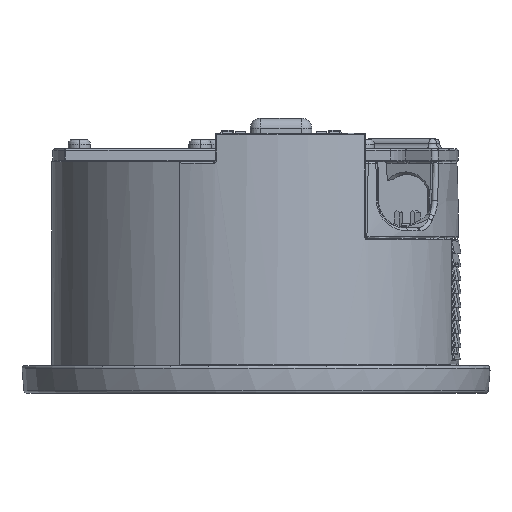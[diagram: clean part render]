
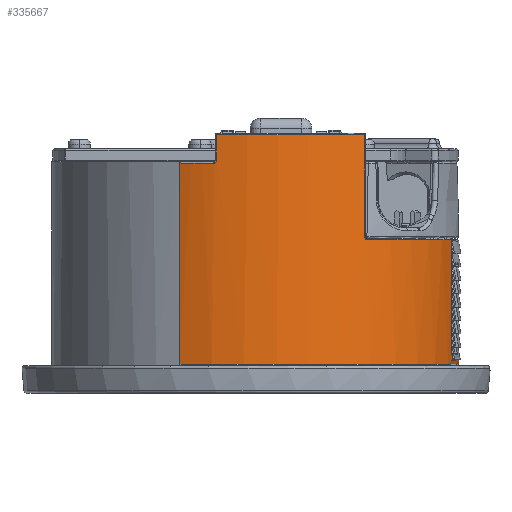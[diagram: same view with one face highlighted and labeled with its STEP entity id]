
A CAD part, front view. The second image highlights one B-rep face of the part: STEP entity #335667.
In plain terms, the highlighted cylindrical face has radius 39.75 mm (diameter 79.5 mm), a partial arc.
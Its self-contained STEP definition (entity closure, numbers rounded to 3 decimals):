
#599 = CARTESIAN_POINT ( 'NONE',  ( -14.089, -36.247, 106.2 ) ) ;
#1860 = DIRECTION ( 'NONE',  ( 0., 0., -1. ) ) ;
#5060 = EDGE_CURVE ( 'NONE', #247431, #171749, #34107, .T. ) ;
#13631 = CARTESIAN_POINT ( 'NONE',  ( -14.089, -36.247, 111.5 ) ) ;
#13843 = VECTOR ( 'NONE', #306586, 1000. ) ;
#15016 = CIRCLE ( 'NONE', #158683, 39.75 ) ;
#16196 = ORIENTED_EDGE ( 'NONE', *, *, #92548, .T. ) ;
#20442 = AXIS2_PLACEMENT_3D ( 'NONE', #110356, #340434, #47844 ) ;
#23114 = CARTESIAN_POINT ( 'NONE',  ( 33.42, 2.739, 67.2 ) ) ;
#23176 = CARTESIAN_POINT ( 'NONE',  ( 15.187, -30.684, 91.042 ) ) ;
#29700 = EDGE_CURVE ( 'NONE', #379120, #58237, #63754, .T. ) ;
#30875 = DIRECTION ( 'NONE',  ( 0., 0., -1. ) ) ;
#34107 = CIRCLE ( 'NONE', #299747, 39.75 ) ;
#34359 = DIRECTION ( 'NONE',  ( 0., 0., -1. ) ) ;
#38847 = CARTESIAN_POINT ( 'NONE',  ( -14.089, -36.247, 106.5 ) ) ;
#40110 = CARTESIAN_POINT ( 'NONE',  ( -14.156, -36.233, 106.183 ) ) ;
#42412 = VERTEX_POINT ( 'NONE', #135340 ) ;
#45787 = VECTOR ( 'NONE', #1860, 1000. ) ;
#47236 = ORIENTED_EDGE ( 'NONE', *, *, #370423, .T. ) ;
#47844 = DIRECTION ( 'NONE',  ( 1., 0., 0. ) ) ;
#50436 = LINE ( 'NONE', #336390, #228900 ) ;
#53815 = CARTESIAN_POINT ( 'NONE',  ( 15.141, -30.713, 91.083 ) ) ;
#58237 = VERTEX_POINT ( 'NONE', #13631 ) ;
#60306 = DIRECTION ( 'NONE',  ( 1., 0., 0. ) ) ;
#61635 = CARTESIAN_POINT ( 'NONE',  ( -6.33, 2.739, 105.9 ) ) ;
#63082 = CARTESIAN_POINT ( 'NONE',  ( -14.089, -36.247, 106.5 ) ) ;
#63754 = CIRCLE ( 'NONE', #243416, 39.75 ) ;
#68809 = LINE ( 'NONE', #277179, #13843 ) ;
#70793 = CARTESIAN_POINT ( 'NONE',  ( -14.693, -36.121, 105.9 ) ) ;
#76858 = DIRECTION ( 'NONE',  ( 0., 0., 1. ) ) ;
#79351 = DIRECTION ( 'NONE',  ( 1., 0., 0. ) ) ;
#83194 = CARTESIAN_POINT ( 'NONE',  ( 15.046, -30.774, 91.213 ) ) ;
#85722 = ORIENTED_EDGE ( 'NONE', *, *, #178183, .T. ) ;
#92548 = EDGE_CURVE ( 'NONE', #288303, #379120, #50436, .T. ) ;
#103309 = AXIS2_PLACEMENT_3D ( 'NONE', #166289, #76858, #79351 ) ;
#110356 = CARTESIAN_POINT ( 'NONE',  ( -6.33, 2.739, 106.2 ) ) ;
#111404 = VERTEX_POINT ( 'NONE', #295234 ) ;
#113678 = CARTESIAN_POINT ( 'NONE',  ( -14.693, -36.121, 105.9 ) ) ;
#121409 = CARTESIAN_POINT ( 'NONE',  ( 14.973, -30.82, 91.5 ) ) ;
#121698 = DIRECTION ( 'NONE',  ( 1., 0., 0. ) ) ;
#129647 = CARTESIAN_POINT ( 'NONE',  ( -14.089, -36.247, 106.341 ) ) ;
#135340 = CARTESIAN_POINT ( 'NONE',  ( 32.016, -7.734, 90.9 ) ) ;
#137669 = VECTOR ( 'NONE', #275951, 1000. ) ;
#138744 = VERTEX_POINT ( 'NONE', #63082 ) ;
#139563 = CARTESIAN_POINT ( 'NONE',  ( 15.231, -30.655, 91.008 ) ) ;
#140332 = CARTESIAN_POINT ( 'NONE',  ( 32.016, -7.734, 90.9 ) ) ;
#141289 = CARTESIAN_POINT ( 'NONE',  ( 15.578, -30.429, 90.9 ) ) ;
#141804 = LINE ( 'NONE', #599, #45787 ) ;
#144523 = CARTESIAN_POINT ( 'NONE',  ( 15.434, -30.523, 90.916 ) ) ;
#145773 = CARTESIAN_POINT ( 'NONE',  ( 14.992, -30.809, 91.329 ) ) ;
#147327 = EDGE_CURVE ( 'NONE', #42412, #149478, #188459, .T. ) ;
#149478 = VERTEX_POINT ( 'NONE', #141289 ) ;
#154955 = CARTESIAN_POINT ( 'NONE',  ( 33.42, 2.739, 66.5 ) ) ;
#156450 = ORIENTED_EDGE ( 'NONE', *, *, #219569, .T. ) ;
#158498 = EDGE_LOOP ( 'NONE', ( #202916, #343809, #338458, #284463, #85722, #16196, #272331, #47236, #376781, #178861, #335605, #156450 ) ) ;
#158683 = AXIS2_PLACEMENT_3D ( 'NONE', #61635, #266023, #121698 ) ;
#166289 = CARTESIAN_POINT ( 'NONE',  ( -6.33, 2.739, 66.5 ) ) ;
#166496 = AXIS2_PLACEMENT_3D ( 'NONE', #234070, #30875, #60306 ) ;
#168542 = CARTESIAN_POINT ( 'NONE',  ( 14.973, -30.82, 91.5 ) ) ;
#171749 = VERTEX_POINT ( 'NONE', #283382 ) ;
#178183 = EDGE_CURVE ( 'NONE', #149478, #288303, #357416, .T. ) ;
#178797 = CARTESIAN_POINT ( 'NONE',  ( -6.33, 2.739, 67.2 ) ) ;
#178861 = ORIENTED_EDGE ( 'NONE', *, *, #210745, .F. ) ;
#188459 = CIRCLE ( 'NONE', #166496, 39.75 ) ;
#200769 = CARTESIAN_POINT ( 'NONE',  ( 15.1, -30.739, 91.128 ) ) ;
#202916 = ORIENTED_EDGE ( 'NONE', *, *, #287894, .F. ) ;
#210745 = EDGE_CURVE ( 'NONE', #268064, #211334, #15016, .T. ) ;
#211334 = VERTEX_POINT ( 'NONE', #113678 ) ;
#212636 = DIRECTION ( 'NONE',  ( 0., 0., -1. ) ) ;
#214520 = EDGE_CURVE ( 'NONE', #171749, #42412, #327288, .T. ) ;
#219569 = EDGE_CURVE ( 'NONE', #111404, #279874, #227985, .T. ) ;
#223422 = CARTESIAN_POINT ( 'NONE',  ( 32.075, -7.513, 75.109 ) ) ;
#227985 = CIRCLE ( 'NONE', #103309, 39.75 ) ;
#228900 = VECTOR ( 'NONE', #367113, 1000. ) ;
#229920 = FACE_OUTER_BOUND ( 'NONE', #158498, .T. ) ;
#234070 = CARTESIAN_POINT ( 'NONE',  ( -6.33, 2.739, 90.9 ) ) ;
#236280 = DIRECTION ( 'NONE',  ( 1., 0., 0. ) ) ;
#239109 = CARTESIAN_POINT ( 'NONE',  ( 14.973, -30.82, 111.5 ) ) ;
#243416 = AXIS2_PLACEMENT_3D ( 'NONE', #299397, #212636, #330167 ) ;
#247431 = VERTEX_POINT ( 'NONE', #23114 ) ;
#247997 = CYLINDRICAL_SURFACE ( 'NONE', #20442, 39.75 ) ;
#255420 = B_SPLINE_CURVE_WITH_KNOTS ( 'NONE', 3,
 ( #70793, #302006, #335286, #40110, #129647, #38847 ),
 .UNSPECIFIED., .F., .F.,
 ( 4, 2, 4 ),
 ( 0., 0.5, 1. ),
 .UNSPECIFIED. ) ;
#256331 = LINE ( 'NONE', #364244, #137669 ) ;
#266023 = DIRECTION ( 'NONE',  ( 0., 0., 1. ) ) ;
#268064 = VERTEX_POINT ( 'NONE', #341673 ) ;
#272331 = ORIENTED_EDGE ( 'NONE', *, *, #29700, .T. ) ;
#275951 = DIRECTION ( 'NONE',  ( 0., 0., -1. ) ) ;
#277179 = CARTESIAN_POINT ( 'NONE',  ( -21.26, -34.101, 106.2 ) ) ;
#279874 = VERTEX_POINT ( 'NONE', #154955 ) ;
#283382 = CARTESIAN_POINT ( 'NONE',  ( 32.104, -7.403, 67.2 ) ) ;
#284463 = ORIENTED_EDGE ( 'NONE', *, *, #147327, .T. ) ;
#287894 = EDGE_CURVE ( 'NONE', #247431, #279874, #256331, .T. ) ;
#288303 = VERTEX_POINT ( 'NONE', #168542 ) ;
#290022 = CARTESIAN_POINT ( 'NONE',  ( 15.541, -30.453, 90.9 ) ) ;
#295234 = CARTESIAN_POINT ( 'NONE',  ( -21.26, -34.101, 66.5 ) ) ;
#299397 = CARTESIAN_POINT ( 'NONE',  ( -6.33, 2.739, 111.5 ) ) ;
#299747 = AXIS2_PLACEMENT_3D ( 'NONE', #178797, #34359, #236280 ) ;
#302006 = CARTESIAN_POINT ( 'NONE',  ( -14.537, -36.155, 105.9 ) ) ;
#306586 = DIRECTION ( 'NONE',  ( 0., 0., -1. ) ) ;
#309539 = EDGE_CURVE ( 'NONE', #211334, #138744, #255420, .T. ) ;
#312766 = CARTESIAN_POINT ( 'NONE',  ( 32.046, -7.624, 83.009 ) ) ;
#314472 = CARTESIAN_POINT ( 'NONE',  ( 15.578, -30.429, 90.9 ) ) ;
#316986 = CARTESIAN_POINT ( 'NONE',  ( 15.329, -30.592, 90.952 ) ) ;
#319449 = CARTESIAN_POINT ( 'NONE',  ( 15.505, -30.477, 90.903 ) ) ;
#320740 = CARTESIAN_POINT ( 'NONE',  ( 15.037, -30.78, 91.23 ) ) ;
#327288 =( BOUNDED_CURVE ( )  B_SPLINE_CURVE ( 3, ( #369163, #223422, #312766, #140332 ),
 .UNSPECIFIED., .F., .F. ) 
 B_SPLINE_CURVE_WITH_KNOTS ( ( 4, 4 ),
 ( 1.829, 1.837 ),
 .UNSPECIFIED. ) 
 CURVE ( )  GEOMETRIC_REPRESENTATION_ITEM ( )  RATIONAL_B_SPLINE_CURVE ( ( 1., 1., 1., 1. ) ) 
 REPRESENTATION_ITEM ( '' )  );
#330167 = DIRECTION ( 'NONE',  ( 1., 0., 0. ) ) ;
#335286 = CARTESIAN_POINT ( 'NONE',  ( -14.38, -36.187, 105.963 ) ) ;
#335605 = ORIENTED_EDGE ( 'NONE', *, *, #368966, .T. ) ;
#335667 = ADVANCED_FACE ( 'NONE', ( #229920 ), #247997, .T. ) ;
#336390 = CARTESIAN_POINT ( 'NONE',  ( 14.973, -30.82, 106.2 ) ) ;
#338458 = ORIENTED_EDGE ( 'NONE', *, *, #214520, .T. ) ;
#340434 = DIRECTION ( 'NONE',  ( 0., 0., -1. ) ) ;
#341673 = CARTESIAN_POINT ( 'NONE',  ( -21.26, -34.101, 105.9 ) ) ;
#343809 = ORIENTED_EDGE ( 'NONE', *, *, #5060, .T. ) ;
#343962 = CARTESIAN_POINT ( 'NONE',  ( 15.201, -30.675, 91.031 ) ) ;
#346425 = CARTESIAN_POINT ( 'NONE',  ( 15.067, -30.761, 91.178 ) ) ;
#348924 = CARTESIAN_POINT ( 'NONE',  ( 15.401, -30.545, 90.925 ) ) ;
#350166 = CARTESIAN_POINT ( 'NONE',  ( 14.973, -30.82, 91.412 ) ) ;
#357416 = B_SPLINE_CURVE_WITH_KNOTS ( 'NONE', 3,
 ( #314472, #290022, #319449, #144523, #348924, #316986, #372152, #139563, #343962, #23176, #53815, #200769, #346425, #83194, #320740, #145773, #350166, #121409 ),
 .UNSPECIFIED., .F., .F.,
 ( 4, 2, 2, 1, 2, 2, 1, 2, 2, 4 ),
 ( 0., 0.125, 0.25, 0.375, 0.438, 0.5, 0.625, 0.688, 0.75, 1. ),
 .UNSPECIFIED. ) ;
#364244 = CARTESIAN_POINT ( 'NONE',  ( 33.42, 2.739, 106.2 ) ) ;
#367113 = DIRECTION ( 'NONE',  ( 0., 0., 1. ) ) ;
#368966 = EDGE_CURVE ( 'NONE', #268064, #111404, #68809, .T. ) ;
#369163 = CARTESIAN_POINT ( 'NONE',  ( 32.104, -7.403, 67.2 ) ) ;
#370423 = EDGE_CURVE ( 'NONE', #58237, #138744, #141804, .T. ) ;
#372152 = CARTESIAN_POINT ( 'NONE',  ( 15.278, -30.625, 90.977 ) ) ;
#376781 = ORIENTED_EDGE ( 'NONE', *, *, #309539, .F. ) ;
#379120 = VERTEX_POINT ( 'NONE', #239109 ) ;
